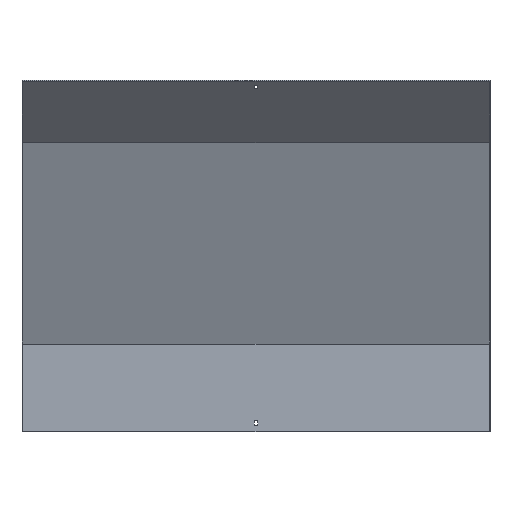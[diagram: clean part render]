
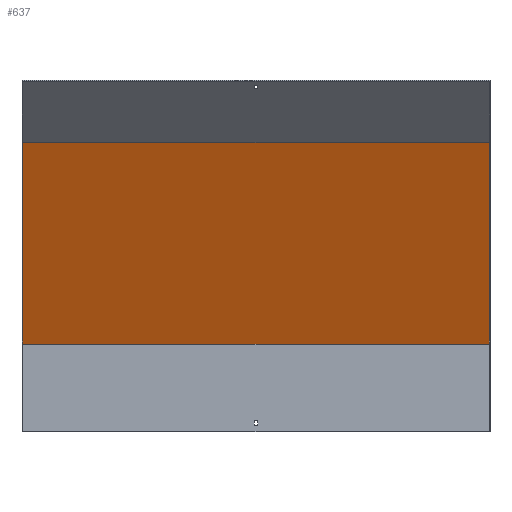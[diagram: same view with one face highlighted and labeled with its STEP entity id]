
A CAD part, front view. The second image highlights one B-rep face of the part: STEP entity #637.
In plain terms, the highlighted planar face has unit normal (0, -0.924, -0.383).
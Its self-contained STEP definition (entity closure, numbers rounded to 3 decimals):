
#6 = LINE ( 'NONE', #335, #222 ) ;
#13 = PLANE ( 'NONE',  #160 ) ;
#37 = LINE ( 'NONE', #429, #113 ) ;
#55 = VERTEX_POINT ( 'NONE', #464 ) ;
#91 = VECTOR ( 'NONE', #149, 1000. ) ;
#106 = EDGE_CURVE ( 'NONE', #674, #542, #6, .T. ) ;
#113 = VECTOR ( 'NONE', #697, 1000. ) ;
#117 = DIRECTION ( 'NONE',  ( 0., -0.924, -0.383 ) ) ;
#149 = DIRECTION ( 'NONE',  ( 0., -0.383, 0.924 ) ) ;
#160 = AXIS2_PLACEMENT_3D ( 'NONE', #319, #117, #258 ) ;
#189 = ORIENTED_EDGE ( 'NONE', *, *, #349, .F. ) ;
#219 = CARTESIAN_POINT ( 'NONE',  ( 450., 18.5, 168.68 ) ) ;
#222 = VECTOR ( 'NONE', #470, 1000. ) ;
#230 = ORIENTED_EDGE ( 'NONE', *, *, #106, .F. ) ;
#258 = DIRECTION ( 'NONE',  ( 0., 0.383, -0.924 ) ) ;
#262 = EDGE_CURVE ( 'NONE', #55, #542, #682, .T. ) ;
#297 = EDGE_CURVE ( 'NONE', #301, #55, #816, .T. ) ;
#300 = CARTESIAN_POINT ( 'NONE',  ( -450., -142.365, 557.042 ) ) ;
#301 = VERTEX_POINT ( 'NONE', #219 ) ;
#319 = CARTESIAN_POINT ( 'NONE',  ( 451.5, 17.092, 172.08 ) ) ;
#335 = CARTESIAN_POINT ( 'NONE',  ( -450., 75.428, 31.243 ) ) ;
#346 = CARTESIAN_POINT ( 'NONE',  ( 450., 75.428, 31.243 ) ) ;
#349 = EDGE_CURVE ( 'NONE', #301, #674, #37, .T. ) ;
#359 = DIRECTION ( 'NONE',  ( -1., 0., 0. ) ) ;
#367 = ORIENTED_EDGE ( 'NONE', *, *, #262, .T. ) ;
#394 = CARTESIAN_POINT ( 'NONE',  ( -450., 18.5, 168.68 ) ) ;
#418 = CARTESIAN_POINT ( 'NONE',  ( 451.5, -142.365, 557.042 ) ) ;
#429 = CARTESIAN_POINT ( 'NONE',  ( 451.5, 18.5, 168.68 ) ) ;
#464 = CARTESIAN_POINT ( 'NONE',  ( 450., -142.365, 557.042 ) ) ;
#470 = DIRECTION ( 'NONE',  ( 0., -0.383, 0.924 ) ) ;
#542 = VERTEX_POINT ( 'NONE', #300 ) ;
#637 = ADVANCED_FACE ( 'NONE', ( #780 ), #13, .T. ) ;
#649 = EDGE_LOOP ( 'NONE', ( #230, #189, #811, #367 ) ) ;
#674 = VERTEX_POINT ( 'NONE', #394 ) ;
#682 = LINE ( 'NONE', #418, #849 ) ;
#697 = DIRECTION ( 'NONE',  ( -1., 0., 0. ) ) ;
#780 = FACE_OUTER_BOUND ( 'NONE', #649, .T. ) ;
#811 = ORIENTED_EDGE ( 'NONE', *, *, #297, .T. ) ;
#816 = LINE ( 'NONE', #346, #91 ) ;
#849 = VECTOR ( 'NONE', #359, 1000. ) ;
